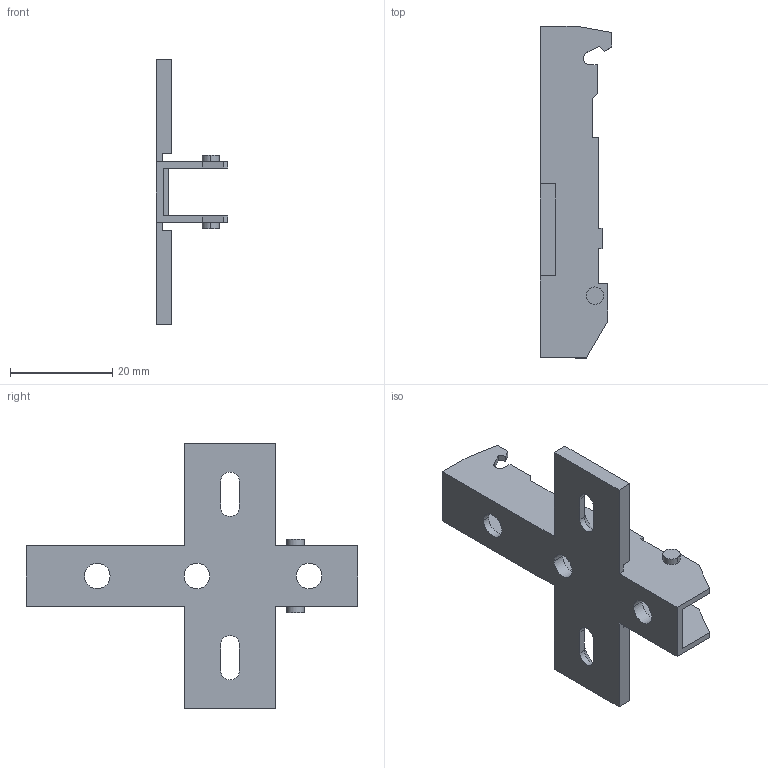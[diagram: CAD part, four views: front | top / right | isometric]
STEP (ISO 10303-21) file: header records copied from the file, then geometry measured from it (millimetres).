
FILE_DESCRIPTION (( 'STEP AP214' ), '1' );
FILE_NAME ('Eco Kreuzmontageplatte LR37_32_Spax_H3,5.step', '2010-11-18T10:05:43', ( 'grass' ), ( '' ), 'SwSTEP 2.0', 'SolidWorks 2010', '' );
FILE_SCHEMA (( 'AUTOMOTIVE_DESIGN' ));
Length unit declared in the file: millimetre
Products named in the file (1): Eco Kreuzmontageplatte LR37_32_Spax_H3,5
Bounding box: 14 x 65 x 52 mm (x, y, z)
Volume: 4651.1 mm3; surface area: 6178.4 mm2
Topology: 1 solids, 1 shells, 94 faces, 260 edges, 170 vertices
Faces by surface type: plane 70, cylinder 18, cone 6
Entity records: 3020 total; most frequent: CARTESIAN_POINT 525, ORIENTED_EDGE 520, DIRECTION 492, EDGE_CURVE 260, VECTOR 218, LINE 218, VERTEX_POINT 170, AXIS2_PLACEMENT_3D 137
